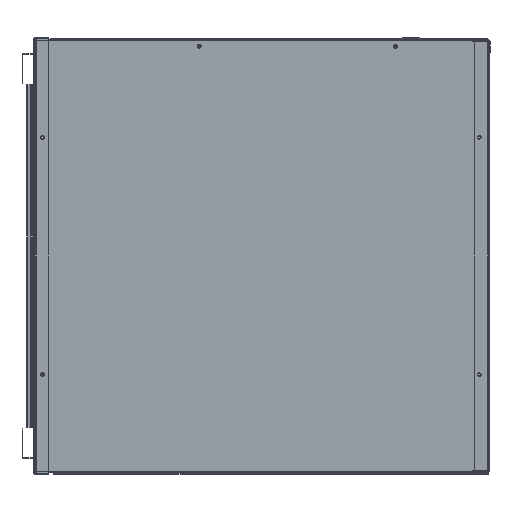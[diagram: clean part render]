
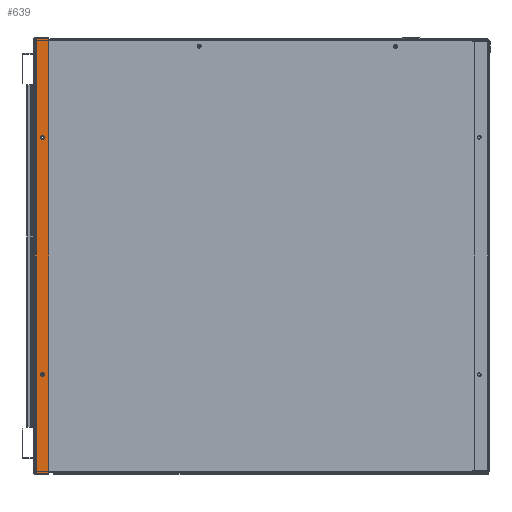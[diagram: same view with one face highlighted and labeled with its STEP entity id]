
A CAD part, left-side view. The second image highlights one B-rep face of the part: STEP entity #639.
In plain terms, the highlighted planar face has unit normal (-1, 0, 0) as drawn and (0, -1, 0) by its records, which use the part's own axes.
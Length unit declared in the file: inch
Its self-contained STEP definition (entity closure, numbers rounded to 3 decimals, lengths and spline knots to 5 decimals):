
#639 = ADVANCED_FACE ( 'NONE', ( #26526, #13678, #11924 ), #4329, .T. ) ;
#702 = CARTESIAN_POINT ( 'NONE',  ( 17.044, 0., -0.33538 ) ) ;
#1326 = CARTESIAN_POINT ( 'NONE',  ( 22.04393, 0., -0.75 ) ) ;
#1479 = CARTESIAN_POINT ( 'NONE',  ( 22.04393, 0., 21.97022 ) ) ;
#1500 = VECTOR ( 'NONE', #25060, 39.37008 ) ;
#1586 = CARTESIAN_POINT ( 'NONE',  ( 0., 0., -0.75 ) ) ;
#2400 = EDGE_CURVE ( 'NONE', #28807, #14342, #30241, .T. ) ;
#2483 = AXIS2_PLACEMENT_3D ( 'NONE', #11661, #30857, #14449 ) ;
#3836 = CARTESIAN_POINT ( 'NONE',  ( 17.044, 0., -0.42913 ) ) ;
#4326 = DIRECTION ( 'NONE',  ( 0., 1., 0. ) ) ;
#4329 = PLANE ( 'NONE',  #31845 ) ;
#5801 = ORIENTED_EDGE ( 'NONE', *, *, #10421, .T. ) ;
#5857 = CARTESIAN_POINT ( 'NONE',  ( 0.04407, 0., -0.75 ) ) ;
#6458 = EDGE_LOOP ( 'NONE', ( #23253, #12638 ) ) ;
#6612 = DIRECTION ( 'NONE',  ( 0., 0., -1. ) ) ;
#8085 = CARTESIAN_POINT ( 'NONE',  ( 0.04407, 0., -0.08387 ) ) ;
#9858 = EDGE_CURVE ( 'NONE', #16085, #15467, #31177, .T. ) ;
#10421 = EDGE_CURVE ( 'NONE', #25680, #29819, #19498, .T. ) ;
#11291 = LINE ( 'NONE', #34135, #25890 ) ;
#11344 = VECTOR ( 'NONE', #28056, 39.37008 ) ;
#11630 = CARTESIAN_POINT ( 'NONE',  ( 0.04407, 0., 22.01417 ) ) ;
#11661 = CARTESIAN_POINT ( 'NONE',  ( 5.044, 0., -0.42913 ) ) ;
#11924 = FACE_BOUND ( 'NONE', #6458, .T. ) ;
#12638 = ORIENTED_EDGE ( 'NONE', *, *, #9858, .T. ) ;
#12871 = CIRCLE ( 'NONE', #23200, 0.09375 ) ;
#12898 = CARTESIAN_POINT ( 'NONE',  ( 17.044, 0., -0.42913 ) ) ;
#13480 = CARTESIAN_POINT ( 'NONE',  ( 5.044, 0., -0.52288 ) ) ;
#13678 = FACE_BOUND ( 'NONE', #34299, .T. ) ;
#14342 = VERTEX_POINT ( 'NONE', #1326 ) ;
#14449 = DIRECTION ( 'NONE',  ( 0., 0., -1. ) ) ;
#14916 = ORIENTED_EDGE ( 'NONE', *, *, #2400, .F. ) ;
#15467 = VERTEX_POINT ( 'NONE', #13480 ) ;
#15679 = DIRECTION ( 'NONE',  ( 0., 0., -1. ) ) ;
#16056 = LINE ( 'NONE', #27782, #1500 ) ;
#16085 = VERTEX_POINT ( 'NONE', #27321 ) ;
#16480 = VERTEX_POINT ( 'NONE', #23857 ) ;
#17748 = DIRECTION ( 'NONE',  ( 1., 0., 0. ) ) ;
#17864 = DIRECTION ( 'NONE',  ( 0., 0., -1. ) ) ;
#19498 = LINE ( 'NONE', #11630, #11344 ) ;
#20719 = CARTESIAN_POINT ( 'NONE',  ( 5.044, 0., -0.42913 ) ) ;
#20898 = EDGE_CURVE ( 'NONE', #14342, #29819, #16056, .T. ) ;
#21027 = EDGE_CURVE ( 'NONE', #25680, #28807, #11291, .T. ) ;
#21536 = CIRCLE ( 'NONE', #30381, 0.09375 ) ;
#21961 = ORIENTED_EDGE ( 'NONE', *, *, #27799, .T. ) ;
#22887 = CIRCLE ( 'NONE', #35444, 0.09375 ) ;
#22953 = VECTOR ( 'NONE', #17864, 39.37008 ) ;
#23005 = DIRECTION ( 'NONE',  ( 0., 1., 0. ) ) ;
#23200 = AXIS2_PLACEMENT_3D ( 'NONE', #3836, #23005, #6612 ) ;
#23253 = ORIENTED_EDGE ( 'NONE', *, *, #29593, .T. ) ;
#23496 = DIRECTION ( 'NONE',  ( 0., 0., -1. ) ) ;
#23857 = CARTESIAN_POINT ( 'NONE',  ( 17.044, 0., -0.52288 ) ) ;
#23979 = EDGE_LOOP ( 'NONE', ( #27794, #5801, #28766, #14916 ) ) ;
#25060 = DIRECTION ( 'NONE',  ( -1., 0., 0. ) ) ;
#25680 = VERTEX_POINT ( 'NONE', #8085 ) ;
#25890 = VECTOR ( 'NONE', #17748, 39.37008 ) ;
#26526 = FACE_OUTER_BOUND ( 'NONE', #23979, .T. ) ;
#27321 = CARTESIAN_POINT ( 'NONE',  ( 5.044, 0., -0.33538 ) ) ;
#27782 = CARTESIAN_POINT ( 'NONE',  ( 0., 0., -0.75 ) ) ;
#27794 = ORIENTED_EDGE ( 'NONE', *, *, #21027, .F. ) ;
#27799 = EDGE_CURVE ( 'NONE', #28331, #16480, #12871, .T. ) ;
#28056 = DIRECTION ( 'NONE',  ( 0., 0., -1. ) ) ;
#28331 = VERTEX_POINT ( 'NONE', #702 ) ;
#28766 = ORIENTED_EDGE ( 'NONE', *, *, #20898, .F. ) ;
#28807 = VERTEX_POINT ( 'NONE', #30245 ) ;
#29593 = EDGE_CURVE ( 'NONE', #15467, #16085, #22887, .T. ) ;
#29819 = VERTEX_POINT ( 'NONE', #5857 ) ;
#30241 = LINE ( 'NONE', #1479, #22953 ) ;
#30245 = CARTESIAN_POINT ( 'NONE',  ( 22.04393, 0., -0.08387 ) ) ;
#30381 = AXIS2_PLACEMENT_3D ( 'NONE', #12898, #32067, #15679 ) ;
#30857 = DIRECTION ( 'NONE',  ( 0., 1., 0. ) ) ;
#31177 = CIRCLE ( 'NONE', #2483, 0.09375 ) ;
#31632 = DIRECTION ( 'NONE',  ( 0., 0., -1. ) ) ;
#31845 = AXIS2_PLACEMENT_3D ( 'NONE', #1586, #34361, #31632 ) ;
#32067 = DIRECTION ( 'NONE',  ( 0., 1., 0. ) ) ;
#32382 = ORIENTED_EDGE ( 'NONE', *, *, #35263, .T. ) ;
#34135 = CARTESIAN_POINT ( 'NONE',  ( 33.04411, 0., -0.08387 ) ) ;
#34299 = EDGE_LOOP ( 'NONE', ( #32382, #21961 ) ) ;
#34361 = DIRECTION ( 'NONE',  ( 0., -1., 0. ) ) ;
#35263 = EDGE_CURVE ( 'NONE', #16480, #28331, #21536, .T. ) ;
#35444 = AXIS2_PLACEMENT_3D ( 'NONE', #20719, #4326, #23496 ) ;
